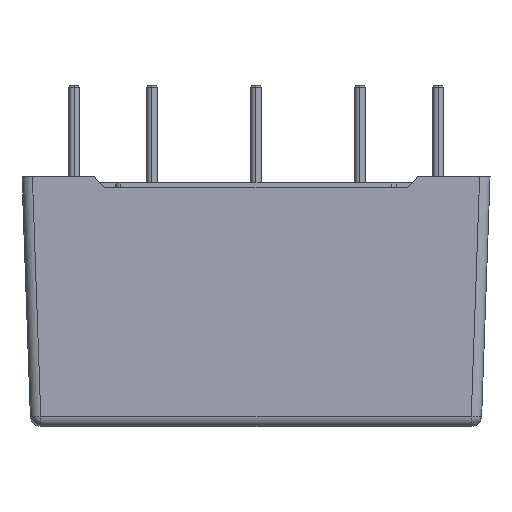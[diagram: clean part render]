
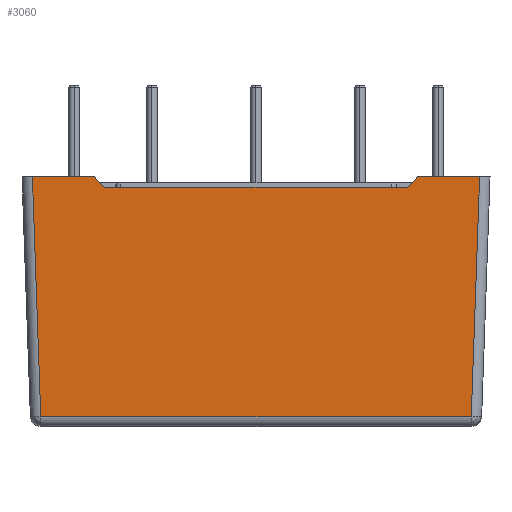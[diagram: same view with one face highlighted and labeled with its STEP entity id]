
A CAD part, left-side view. The second image highlights one B-rep face of the part: STEP entity #3060.
In plain terms, the highlighted planar face has unit normal (-0.999, 0, -0.035).
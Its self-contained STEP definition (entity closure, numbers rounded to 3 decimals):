
#78 = LINE ( 'NONE', #4787, #8154 ) ;
#199 = CARTESIAN_POINT ( 'NONE',  ( 0., 44.001, 24. ) ) ;
#253 = CARTESIAN_POINT ( 'NONE',  ( 0., 7., 24. ) ) ;
#337 = LINE ( 'NONE', #1282, #11196 ) ;
#410 = VERTEX_POINT ( 'NONE', #199 ) ;
#449 = CARTESIAN_POINT ( 'NONE',  ( 0.035, 7.966, 23. ) ) ;
#526 = DIRECTION ( 'NONE',  ( 0.025, -0.694, -0.719 ) ) ;
#815 = CARTESIAN_POINT ( 'NONE',  ( 0.804, 43.196, 0.965 ) ) ;
#1030 = CARTESIAN_POINT ( 'NONE',  ( 0.035, 37.034, 23. ) ) ;
#1282 = CARTESIAN_POINT ( 'NONE',  ( 0., 44.001, 24. ) ) ;
#1421 = VECTOR ( 'NONE', #1658, 1000. ) ;
#1658 = DIRECTION ( 'NONE',  ( 0.025, 0.694, -0.719 ) ) ;
#1724 = LINE ( 'NONE', #12026, #6992 ) ;
#2372 = LINE ( 'NONE', #5806, #4864 ) ;
#2506 = EDGE_CURVE ( 'NONE', #4415, #6869, #5886, .T. ) ;
#2679 = VERTEX_POINT ( 'NONE', #1030 ) ;
#2791 = CARTESIAN_POINT ( 'NONE',  ( 0.804, 1.804, 0.965 ) ) ;
#2835 = DIRECTION ( 'NONE',  ( -0.999, 0., -0.035 ) ) ;
#3054 = VECTOR ( 'NONE', #8082, 1000. ) ;
#3060 = ADVANCED_FACE ( 'NONE', ( #6488 ), #8054, .T. ) ;
#3685 = DIRECTION ( 'NONE',  ( -0.035, -0.035, 0.999 ) ) ;
#4077 = ORIENTED_EDGE ( 'NONE', *, *, #7628, .F. ) ;
#4415 = VERTEX_POINT ( 'NONE', #815 ) ;
#4437 = CARTESIAN_POINT ( 'NONE',  ( 0.035, 22.5, 23. ) ) ;
#4611 = ORIENTED_EDGE ( 'NONE', *, *, #5167, .F. ) ;
#4787 = CARTESIAN_POINT ( 'NONE',  ( 0., 22.5, 24. ) ) ;
#4864 = VECTOR ( 'NONE', #526, 1000. ) ;
#5167 = EDGE_CURVE ( 'NONE', #5516, #9558, #78, .T. ) ;
#5195 = ORIENTED_EDGE ( 'NONE', *, *, #6885, .F. ) ;
#5260 = AXIS2_PLACEMENT_3D ( 'NONE', #9152, #2835, #10192 ) ;
#5516 = VERTEX_POINT ( 'NONE', #253 ) ;
#5600 = ORIENTED_EDGE ( 'NONE', *, *, #8307, .T. ) ;
#5806 = CARTESIAN_POINT ( 'NONE',  ( 0., 38., 24. ) ) ;
#5886 = LINE ( 'NONE', #13308, #3054 ) ;
#6277 = CARTESIAN_POINT ( 'NONE',  ( 0., 0.999, 24. ) ) ;
#6488 = FACE_OUTER_BOUND ( 'NONE', #12922, .T. ) ;
#6762 = EDGE_CURVE ( 'NONE', #5516, #12804, #12276, .T. ) ;
#6869 = VERTEX_POINT ( 'NONE', #2791 ) ;
#6885 = EDGE_CURVE ( 'NONE', #410, #9968, #12120, .T. ) ;
#6992 = VECTOR ( 'NONE', #3685, 1000. ) ;
#7074 = CARTESIAN_POINT ( 'NONE',  ( 0., 22.5, 24. ) ) ;
#7628 = EDGE_CURVE ( 'NONE', #2679, #12804, #13415, .T. ) ;
#8054 = PLANE ( 'NONE',  #5260 ) ;
#8082 = DIRECTION ( 'NONE',  ( 0., -1., 0. ) ) ;
#8106 = ORIENTED_EDGE ( 'NONE', *, *, #2506, .T. ) ;
#8154 = VECTOR ( 'NONE', #12146, 1000. ) ;
#8160 = VECTOR ( 'NONE', #13364, 1000. ) ;
#8307 = EDGE_CURVE ( 'NONE', #6869, #9558, #1724, .T. ) ;
#8961 = CARTESIAN_POINT ( 'NONE',  ( 0., 38., 24. ) ) ;
#9019 = CARTESIAN_POINT ( 'NONE',  ( 0., 7., 24. ) ) ;
#9152 = CARTESIAN_POINT ( 'NONE',  ( 0.838, 0., 0.015 ) ) ;
#9558 = VERTEX_POINT ( 'NONE', #6277 ) ;
#9931 = EDGE_CURVE ( 'NONE', #9968, #2679, #2372, .T. ) ;
#9968 = VERTEX_POINT ( 'NONE', #8961 ) ;
#10192 = DIRECTION ( 'NONE',  ( -0.035, 0., 0.999 ) ) ;
#10755 = DIRECTION ( 'NONE',  ( 0.035, -0.035, -0.999 ) ) ;
#10890 = ORIENTED_EDGE ( 'NONE', *, *, #9931, .F. ) ;
#11196 = VECTOR ( 'NONE', #10755, 1000. ) ;
#11426 = ORIENTED_EDGE ( 'NONE', *, *, #6762, .T. ) ;
#11802 = DIRECTION ( 'NONE',  ( 0., -1., 0. ) ) ;
#12026 = CARTESIAN_POINT ( 'NONE',  ( 0.804, 1.804, 0.965 ) ) ;
#12120 = LINE ( 'NONE', #7074, #8160 ) ;
#12146 = DIRECTION ( 'NONE',  ( 0., -1., 0. ) ) ;
#12274 = VECTOR ( 'NONE', #11802, 1000. ) ;
#12276 = LINE ( 'NONE', #9019, #1421 ) ;
#12804 = VERTEX_POINT ( 'NONE', #449 ) ;
#12922 = EDGE_LOOP ( 'NONE', ( #5600, #4611, #11426, #4077, #10890, #5195, #13173, #8106 ) ) ;
#13173 = ORIENTED_EDGE ( 'NONE', *, *, #13317, .T. ) ;
#13308 = CARTESIAN_POINT ( 'NONE',  ( 0.804, 0., 0.965 ) ) ;
#13317 = EDGE_CURVE ( 'NONE', #410, #4415, #337, .T. ) ;
#13364 = DIRECTION ( 'NONE',  ( 0., -1., 0. ) ) ;
#13415 = LINE ( 'NONE', #4437, #12274 ) ;
